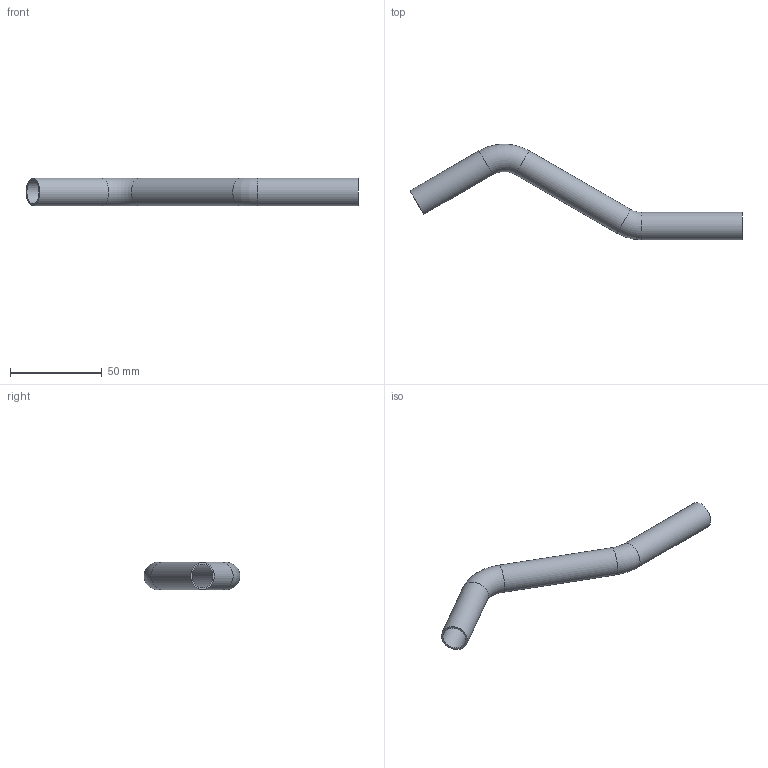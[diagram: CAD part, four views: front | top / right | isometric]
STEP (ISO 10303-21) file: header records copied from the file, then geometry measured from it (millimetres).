
FILE_DESCRIPTION((''),'2;1');
FILE_NAME('G:\Nirosan-Schmiedefeld\Technics\CAD\Bauteile VA\015\6908715(0).stp','2011-10-26T11:55:58',('herberg'),(''),'Autodesk Inventor 2009','Autodesk Inventor 2009','');
FILE_SCHEMA(('AUTOMOTIVE_DESIGN { 1 0 10303 214 1 1 1 1 }'));
Length unit declared in the file: millimetre
Products named in the file (1): 6908715(0)
Bounding box: 181.38 x 52.31 x 15 mm (x, y, z)
Volume: 8507.6 mm3; surface area: 17103.2 mm2
Topology: 1 solids, 1 shells, 12 faces, 22 edges, 12 vertices
Faces by surface type: cylinder 6, torus 4, plane 2
Full cylindrical faces by diameter (mm): 13 x3, 15 x3
Entity records: 274 total; most frequent: DIRECTION 50, CARTESIAN_POINT 37, AXIS2_PLACEMENT_3D 25, ORIENTED_EDGE 24, EDGE_LOOP 24, VERTEX_POINT 12, CIRCLE 12, EDGE_CURVE 12
